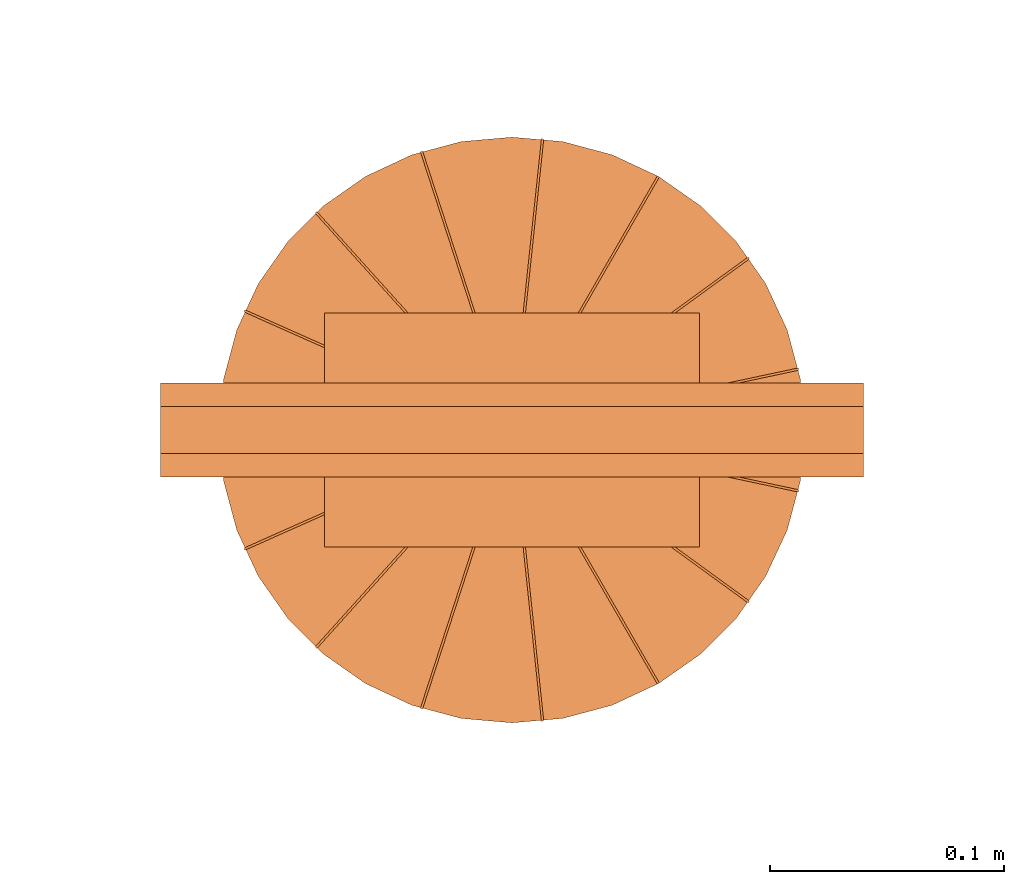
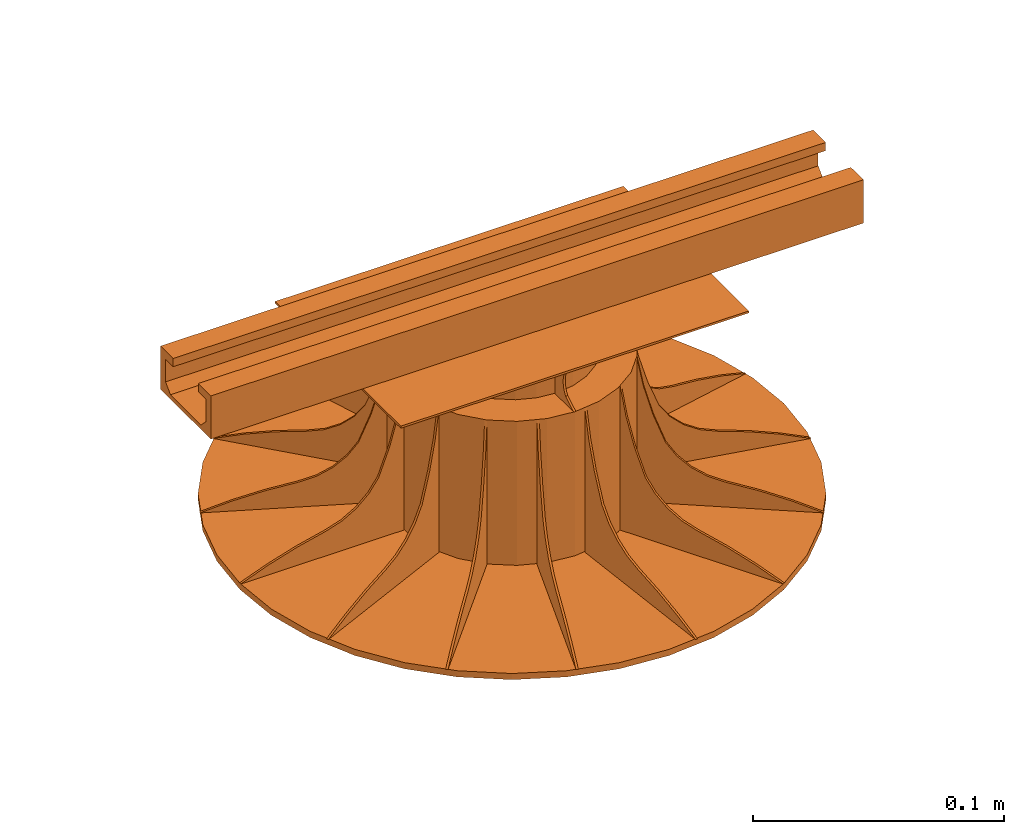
# One storey, part 72 of 197: 1 proxy.
"""IFC2X3 building model written with IfcOpenShell, lengths in metres."""

import ifcopenshell
import ifcopenshell.guid

model = None  # the IFC model being written
_history = None  # IfcOwnerHistory: only IFC2X3 demands one
_inside = {}  # id of a spatial element -> (the spatial element, [elements in it])
_under = {}  # id of a project, library or spatial element -> (it, [spatial elements below it])
_declared = {}  # id of a project -> (the project, [libraries it declares])
_typed = {}  # id of a type object -> (the type object, [elements of that type])
_made_of = {}  # id of a material, layer set ... -> (it, [elements and type objects made of it])


def new_model(schema):
    """Start an empty IFC model of exactly this schema.

    Asked for "IFC4X3", IfcOpenShell would pick the latest addendum, in which some entities
    have other attributes; the version numbers below select the first issue.
    IFC2X3 requires an IfcOwnerHistory on every rooted entity: one is made here for all.
    """
    global model, _history
    if schema == "IFC4X3":
        model = ifcopenshell.file(schema_version=(4, 3, 0, 0))
    else:
        model = ifcopenshell.file(schema=schema)
    _inside.clear()
    _under.clear()
    _declared.clear()
    _typed.clear()
    _made_of.clear()
    _history = None
    if model.schema == "IFC2X3":
        org = make("IfcOrganization", Name="unknown")
        user = make(
            "IfcPersonAndOrganization",
            ThePerson=make("IfcPerson", FamilyName="unknown"),
            TheOrganization=org,
        )
        app = make(
            "IfcApplication",
            ApplicationDeveloper=org,
            Version="unknown",
            ApplicationFullName="unknown",
            ApplicationIdentifier="unknown",
        )
        _history = make(
            "IfcOwnerHistory",
            OwningUser=user,
            OwningApplication=app,
            ChangeAction="ADDED",
            CreationDate=0,
        )
    return model


def make(cls, **values):
    """One entity of the class cls with the attributes given. An attribute that is None is left unset."""
    return model.create_entity(
        cls, **{name: value for name, value in values.items() if value is not None}
    )


def entity(cls, *values):
    """Any entity or typed value of the class cls, its attributes in the order of the schema. None: left unset."""
    e = model.create_entity(cls)
    for i, value in enumerate(values):
        if value is not None:
            e[i] = value
    return e


def rooted(cls, **values):
    """An entity with a GlobalId (a new one), such as an element, a storey or a relation."""
    return make(cls, GlobalId=ifcopenshell.guid.new(), OwnerHistory=_history, **values)


def si_unit(unit_type, name, prefix=None):
    """IfcSIUnit, for example si_unit("LENGTHUNIT", "METRE", prefix="MILLI")."""
    return make("IfcSIUnit", UnitType=unit_type, Prefix=prefix, Name=name)


def converted_unit(unit_type, name, factor, base, dimensions=None, offset=None):
    """IfcConversionBasedUnit, such as the inch: factor (a typed value) times the base unit."""
    return make(
        "IfcConversionBasedUnit"
        if offset is None
        else "IfcConversionBasedUnitWithOffset",
        ConversionOffset=offset,
        Dimensions=None
        if dimensions is None
        else entity("IfcDimensionalExponents", *dimensions),
        UnitType=unit_type,
        Name=name,
        ConversionFactor=make(
            "IfcMeasureWithUnit", ValueComponent=factor, UnitComponent=base
        ),
    )


def assignment(units):
    """IfcUnitAssignment: the units of a project."""
    return None if units is None else make("IfcUnitAssignment", Units=units)


def point(xyz):
    """IfcCartesianPoint."""
    return None if xyz is None else make("IfcCartesianPoint", Coordinates=xyz)


def direction(xyz):
    """IfcDirection."""
    return None if xyz is None else make("IfcDirection", DirectionRatios=xyz)


def frame(location, z_axis=None, x_axis=None):
    """IfcAxis2Placement3D, a coordinate frame: its origin and axes. An axis left out is left unset."""
    return make(
        "IfcAxis2Placement3D",
        Location=point(location),
        Axis=direction(z_axis),
        RefDirection=direction(x_axis),
    )


def frame_2d(location, x_axis=None):
    """IfcAxis2Placement2D, a coordinate frame in the plane: its origin and x axis."""
    return make(
        "IfcAxis2Placement2D", Location=point(location), RefDirection=direction(x_axis)
    )


def origin():
    """The frame at (0, 0, 0) with its axes left unset."""
    return frame((0.0, 0.0, 0.0))


def place(relative_to, where):
    """IfcLocalPlacement: puts the frame where relative to a parent placement (None: the world)."""
    return make(
        "IfcLocalPlacement", PlacementRelTo=relative_to, RelativePlacement=where
    )


def context(
    kind, dimensions, precision=None, world=None, true_north=None, identifier=None
):
    """IfcGeometricRepresentationContext, for example the 3D "Model" context."""
    return make(
        "IfcGeometricRepresentationContext",
        ContextIdentifier=identifier,
        ContextType=kind,
        CoordinateSpaceDimension=dimensions,
        Precision=precision,
        WorldCoordinateSystem=world,
        TrueNorth=true_north,
    )


def subcontext(parent, identifier, kind, view, scale=None):
    """IfcGeometricRepresentationSubContext, for example "Body" below "Model"."""
    return make(
        "IfcGeometricRepresentationSubContext",
        ContextIdentifier=identifier,
        ContextType=kind,
        ParentContext=parent,
        TargetScale=scale,
        TargetView=view,
    )


def project(units=None, contexts=None):
    """IfcProject with its units and contexts."""
    return rooted(
        "IfcProject",
        Name="project",
        RepresentationContexts=contexts,
        UnitsInContext=assignment(units),
    )


def spatial(cls, under=None, at=None, **own):
    """A site, building, storey or space (cls), placed at a placement, below another one or the project."""
    s = rooted(cls, ObjectPlacement=at, **own)
    if under is not None:
        _under.setdefault(under.id(), (under, []))[1].append(s)
    return s


def polyline(points):
    """IfcPolyline through the points."""
    return make("IfcPolyline", Points=[point(p) for p in points])


def circle_curve(where, radius):
    """IfcCircle in the frame where."""
    return make("IfcCircle", Position=where, Radius=radius)


def parameter(value):
    """IfcParameterValue: where a trimmed curve begins or ends, as a parameter of its basis curve."""
    return model.create_entity("IfcParameterValue", value)


def trimmed(basis, trim1, trim2, sense, master):
    """IfcTrimmedCurve: the piece of a basis curve between two trims."""
    return make(
        "IfcTrimmedCurve",
        BasisCurve=basis,
        Trim1=trim1,
        Trim2=trim2,
        SenseAgreement=sense,
        MasterRepresentation=master,
    )


def segment(curve, same_sense, transition):
    """IfcCompositeCurveSegment."""
    return make(
        "IfcCompositeCurveSegment",
        Transition=transition,
        SameSense=same_sense,
        ParentCurve=curve,
    )


def composite_curve(segments, self_intersect=None):
    """IfcCompositeCurve: segments joined end to end."""
    return make("IfcCompositeCurve", Segments=segments, SelfIntersect=self_intersect)


def profile(cls, at=None, kind="AREA", **sizes):
    """A parametric profile (cls). Its sizes go by their IFC names, for example OverallWidth=200.0."""
    return make(cls, ProfileType=kind, Position=at, **sizes)


def rectangle(**sizes):
    """IfcRectangleProfileDef."""
    return profile("IfcRectangleProfileDef", **sizes)


def circle(**sizes):
    """IfcCircleProfileDef."""
    return profile("IfcCircleProfileDef", **sizes)


def outline(outer, holes=None, kind="AREA"):
    """IfcArbitraryClosedProfileDef: a profile drawn as a closed curve; with holes, ...WithVoids."""
    if holes is None:
        return make("IfcArbitraryClosedProfileDef", ProfileType=kind, OuterCurve=outer)
    return make(
        "IfcArbitraryProfileDefWithVoids",
        ProfileType=kind,
        OuterCurve=outer,
        InnerCurves=holes,
    )


def extrude(swept, where, along, depth):
    """IfcExtrudedAreaSolid: the profile swept, set in the frame where, extruded along a direction by depth."""
    return make(
        "IfcExtrudedAreaSolid",
        SweptArea=swept,
        Position=where,
        ExtrudedDirection=direction(along),
        Depth=depth,
    )


def shape(context_of_items, identifier, shape_type, items):
    """IfcShapeRepresentation: the items that make up one representation, for example the "Body"."""
    return make(
        "IfcShapeRepresentation",
        ContextOfItems=context_of_items,
        RepresentationIdentifier=identifier,
        RepresentationType=shape_type,
        Items=items,
    )


def source(mapping_origin, context_of_items, identifier, shape_type, items):
    """IfcRepresentationMap: a shape defined once, which mapped items show again and again."""
    return make(
        "IfcRepresentationMap",
        MappingOrigin=mapping_origin,
        MappedRepresentation=shape(context_of_items, identifier, shape_type, items),
    )


def transform(
    local_origin,
    x_axis=None,
    y_axis=None,
    z_axis=None,
    scale=None,
    scale2=None,
    scale3=None,
    uniform=True,
):
    """IfcCartesianTransformationOperator3D, or its non-uniform kind. x_axis, y_axis, z_axis: its Axis1, 2, 3."""
    if uniform:
        return make(
            "IfcCartesianTransformationOperator3D",
            Axis1=direction(x_axis),
            Axis2=direction(y_axis),
            LocalOrigin=point(local_origin),
            Scale=scale,
            Axis3=direction(z_axis),
        )
    return make(
        "IfcCartesianTransformationOperator3DnonUniform",
        Axis1=direction(x_axis),
        Axis2=direction(y_axis),
        LocalOrigin=point(local_origin),
        Scale=scale,
        Axis3=direction(z_axis),
        Scale2=scale2,
        Scale3=scale3,
    )


def mapped(mapping_source, mapping_target):
    """IfcMappedItem: shows the shape of a source again, moved by a transform."""
    return make(
        "IfcMappedItem", MappingSource=mapping_source, MappingTarget=mapping_target
    )


def material(Name=None, Category=None):
    """IfcMaterial."""
    return make("IfcMaterial", Name=Name, Category=Category)


def made_of(thing, what):
    """Note that an element or type object is made of a material, layer set ...; save() writes the relation."""
    if what is not None:
        _made_of.setdefault(what.id(), (what, []))[1].append(thing)
    return thing


def type_object(cls, material=None, **own):
    """A type object (cls), such as IfcWallType, which elements share."""
    return made_of(rooted(cls, **own), material)


def type_shapes(of_type, sources):
    """Give a type object the sources (RepresentationMaps) that its elements show as mapped items."""
    of_type.RepresentationMaps = sources


def element(
    cls,
    number,
    at=None,
    inside=None,
    cuts=None,
    type_object=None,
    material=None,
    context=None,
    identifier="Body",
    shape_type=None,
    held_by="IfcProductDefinitionShape",
    body=None,
    shapes=None,
    **own,
):
    """One element of the class cls, such as IfcWall. Its Tag is "e" and its number.

    at: its placement. inside: the storey or other place that contains it. cuts: it is an
    opening in that element (IfcRelVoidsElement). A single representation is given by context,
    identifier, shape_type and body (its items); several are given by shapes. held_by: the class
    of the entity that holds the representations. save() writes the other relations.
    """
    e = rooted(cls, Tag="e%d" % number, ObjectPlacement=at, **own)
    if body is not None:
        shapes = [shape(context, identifier, shape_type, body)]
    if shapes is not None:
        e.Representation = make(held_by, Representations=shapes)
    if inside is not None:
        _inside.setdefault(inside.id(), (inside, []))[1].append(e)
    if cuts is not None:
        rooted(
            "IfcRelVoidsElement", RelatingBuildingElement=cuts, RelatedOpeningElement=e
        )
    if type_object is not None:
        _typed.setdefault(type_object.id(), (type_object, []))[1].append(e)
    return made_of(e, material)


def aggregate(whole, parts):
    """IfcRelAggregates: a whole, such as a stair, and the parts it consists of."""
    return rooted("IfcRelAggregates", RelatingObject=whole, RelatedObjects=parts)


def save(model, path):
    """Write the relations noted so far, then the file.

    IfcRelAggregates (storeys below a building ...), IfcRelContainedInSpatialStructure (elements
    in a storey), IfcRelDefinesByType, IfcRelAssociatesMaterial and IfcRelDeclares: one each for
    every whole, place, type object, material and project.
    """
    for whole, parts in _under.values():
        aggregate(whole, parts)
    for where, things in _inside.values():
        rooted(
            "IfcRelContainedInSpatialStructure",
            RelatedElements=things,
            RelatingStructure=where,
        )
    for kind, things in _typed.values():
        rooted("IfcRelDefinesByType", RelatedObjects=things, RelatingType=kind)
    for what, things in _made_of.values():
        rooted("IfcRelAssociatesMaterial", RelatedObjects=things, RelatingMaterial=what)
    for by, libraries in _declared.values():
        rooted("IfcRelDeclares", RelatingContext=by, RelatedDefinitions=libraries)
    model.write(path)


model = new_model("IFC2X3")

# Units and contexts
model_context = context("Model", 3, precision=1e-05, world=origin(), true_north=direction((6.123031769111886e-17, 1.0)))
body_context = subcontext(model_context, "Body", "Model", "MODEL_VIEW")
ifc_project = project(units=[si_unit("LENGTHUNIT", "METRE"), converted_unit("PLANEANGLEUNIT", "DEGREE", entity("IfcPlaneAngleMeasure", 0.017453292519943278), si_unit("PLANEANGLEUNIT", "RADIAN"), dimensions=[0, 0, 0, 0, 0, 0, 0]), si_unit("AREAUNIT", "SQUARE_METRE")], contexts=[model_context])

# Site, building, storey
site_placement = place(None, origin())
site = spatial("IfcSite", under=ifc_project, at=site_placement, Name="Default", CompositionType="ELEMENT")
building_placement = place(site_placement, origin())
building = spatial("IfcBuilding", under=site, at=building_placement, CompositionType="ELEMENT")
storey_placement = place(building_placement, origin())
storey = spatial("IfcBuildingStorey", under=building, at=storey_placement, Name="Niveau 0", CompositionType="ELEMENT", Elevation=0.0)

# Proxy
ifc_material = material(Name="<Unnamed>")
building_element_proxy_type = type_object("IfcBuildingElementProxyType", Name="Plot pour CDC:Plot pour CDC", PredefinedType="NOTDEFINED", material=ifc_material)
shared_shape = source(origin(), body_context, "Body", "SweptSolid", [
    extrude(outline(polyline([(-0.019811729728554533, -0.011355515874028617), (0.020188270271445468, -0.011355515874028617), (0.020188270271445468, 0.00964448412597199), (0.010188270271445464, 0.009644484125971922), (0.010188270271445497, 0.0056444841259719), (0.016188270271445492, 0.005644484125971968), (0.016188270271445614, -0.005355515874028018), (0.01229918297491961, -0.009244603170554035), (-0.0026357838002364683, -0.009244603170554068), (-0.011922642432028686, -0.009244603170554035), (-0.01581172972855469, -0.005355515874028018), (-0.015811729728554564, 0.005644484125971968), (-0.00981172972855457, 0.0056444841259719), (-0.009811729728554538, 0.009644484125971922), (-0.019811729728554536, 0.00964448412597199), (-0.019811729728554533, -0.011355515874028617)])), frame((-0.15000000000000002, -0.00018827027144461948, 0.10535551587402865), z_axis=(1.0, 0.0, 0.0), x_axis=(0.0, 1.0, 0.0)), (0.0, 0.0, 1.0), 0.3),
    extrude(outline(composite_curve([segment(polyline([(-0.007700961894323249, -0.011249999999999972), (0.0072990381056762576, -0.011249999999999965)]), True, "CONTINUOUS"), segment(trimmed(circle_curve(frame_2d((0.009202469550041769, -0.0010661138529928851), x_axis=(-1.0, 0.0)), 0.010360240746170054), [parameter(324.1603634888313)], [parameter(79.41321510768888)], True, "PARAMETER"), False, "CONTINUOUS"), segment(polyline([(0.0008038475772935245, 0.004999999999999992), (0.007299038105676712, 0.008749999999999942)]), True, "CONTINUOUS"), segment(polyline([(0.007299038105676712, 0.008749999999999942), (-0.007700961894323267, 0.008749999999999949)]), True, "CONTINUOUS"), segment(polyline([(-0.007700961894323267, 0.008749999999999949), (-0.007700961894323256, -0.011249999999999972)]), True, "CONTINUOUS")], self_intersect=False)), frame((-0.000500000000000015, -0.04270096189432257, 0.08174999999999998), z_axis=(1.0, 0.0, 0.0), x_axis=(0.0, -1.0, 0.0)), (0.0, 0.0, 1.0), 0.001),
    extrude(outline(composite_curve([segment(polyline([(-0.009651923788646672, -0.011249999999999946), (0.015102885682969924, -0.011249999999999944)]), True, "CONTINUOUS"), segment(trimmed(circle_curve(frame_2d((0.01510288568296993, 0.005000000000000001), x_axis=(-1.0, 0.0)), 0.016249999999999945), [parameter(3.053332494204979e-13)], [parameter(90.00000000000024)], True, "PARAMETER"), False, "CONTINUOUS"), segment(polyline([(-0.0011471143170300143, 0.004999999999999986), (0.005348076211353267, 0.008749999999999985)]), True, "CONTINUOUS"), segment(polyline([(0.005348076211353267, 0.008749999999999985), (-0.009651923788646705, 0.008749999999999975)]), True, "CONTINUOUS"), segment(polyline([(-0.009651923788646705, 0.008749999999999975), (-0.009651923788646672, -0.011249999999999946)]), True, "CONTINUOUS")], self_intersect=False)), frame((0.04465192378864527, -0.0005000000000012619, 0.08175000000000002), z_axis=(0.0, 1.0, 0.0), x_axis=(1.0, 0.0, 0.0)), (0.0, 0.0, 1.0), 0.001),
    extrude(outline(composite_curve([segment(polyline([(-0.011249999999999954, -0.007700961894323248), (0.008749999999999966, -0.0077009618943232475)]), True, "CONTINUOUS"), segment(polyline([(0.008749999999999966, -0.0077009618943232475), (0.00874999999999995, 0.007299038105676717)]), True, "CONTINUOUS"), segment(polyline([(0.00874999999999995, 0.007299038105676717), (0.005000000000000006, 0.0008038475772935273)]), True, "CONTINUOUS"), segment(trimmed(circle_curve(frame_2d((-0.0010661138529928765, 0.009202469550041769), x_axis=(0.0, -1.0)), 0.010360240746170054), [parameter(280.58678489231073)], [parameter(35.839636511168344)], True, "PARAMETER"), False, "CONTINUOUS"), segment(polyline([(-0.011249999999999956, 0.0072990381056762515), (-0.011249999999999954, -0.007700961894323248)]), True, "CONTINUOUS")], self_intersect=False)), frame((-0.0005000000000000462, 0.042700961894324, 0.08174999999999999), z_axis=(1.0, 0.0, 0.0), x_axis=(0.0, 0.0, -1.0)), (0.0, 0.0, 1.0), 0.001),
    extrude(outline(composite_curve([segment(polyline([(-0.011249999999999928, -0.00965192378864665), (0.008749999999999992, -0.00965192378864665)]), True, "CONTINUOUS"), segment(polyline([(0.008749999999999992, -0.00965192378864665), (0.008749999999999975, 0.00534807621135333)]), True, "CONTINUOUS"), segment(polyline([(0.008749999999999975, 0.00534807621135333), (0.004999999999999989, -0.001147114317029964)]), True, "CONTINUOUS"), segment(trimmed(circle_curve(frame_2d((0.004999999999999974, 0.01510288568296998), x_axis=(0.0, -1.0)), 0.016249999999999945), [parameter(269.9999999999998)], [parameter(359.9999999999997)], True, "PARAMETER"), False, "CONTINUOUS"), segment(polyline([(-0.01124999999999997, 0.015102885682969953), (-0.011249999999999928, -0.00965192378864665)]), True, "CONTINUOUS")], self_intersect=False)), frame((-0.044651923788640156, -0.0004999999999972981, 0.08175000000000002), z_axis=(0.0, 1.0, 0.0), x_axis=(0.0, 0.0, -1.0)), (0.0, 0.0, 1.0), 0.001),
    extrude(outline(composite_curve([segment(polyline([(-0.009651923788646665, -0.011249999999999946), (0.01510288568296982, -0.011249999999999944)]), True, "CONTINUOUS"), segment(trimmed(circle_curve(frame_2d((0.015102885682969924, 0.005000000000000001), x_axis=(-1.0, 0.0)), 0.016249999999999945), [parameter(359.99999999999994)], [parameter(89.99999999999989)], True, "PARAMETER"), False, "CONTINUOUS"), segment(polyline([(-0.0011471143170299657, 0.005), (0.005348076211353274, 0.008749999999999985)]), True, "CONTINUOUS"), segment(polyline([(0.005348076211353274, 0.008749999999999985), (-0.009651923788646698, 0.008749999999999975)]), True, "CONTINUOUS"), segment(polyline([(-0.009651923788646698, 0.008749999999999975), (-0.009651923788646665, -0.011249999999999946)]), True, "CONTINUOUS")], self_intersect=False)), frame((0.04465192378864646, -0.0004999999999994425, 0.08175000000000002), z_axis=(0.0, 1.0, 0.0), x_axis=(1.0, 0.0, 0.0)), (0.0, 0.0, 1.0), 0.001),
    extrude(outline(composite_curve([segment(polyline([(-0.011249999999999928, -0.009651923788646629), (0.008749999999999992, -0.009651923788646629)]), True, "CONTINUOUS"), segment(polyline([(0.008749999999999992, -0.009651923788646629), (0.008749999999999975, 0.005348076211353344)]), True, "CONTINUOUS"), segment(polyline([(0.008749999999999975, 0.005348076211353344), (0.005000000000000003, -0.0011471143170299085)]), True, "CONTINUOUS"), segment(trimmed(circle_curve(frame_2d((0.004999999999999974, 0.015102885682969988), x_axis=(0.0, -1.0)), 0.016249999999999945), [parameter(270.0000000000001)], [parameter(5.088887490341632e-14)], True, "PARAMETER"), False, "CONTINUOUS"), segment(polyline([(-0.01124999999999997, 0.015102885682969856), (-0.011249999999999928, -0.009651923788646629)]), True, "CONTINUOUS")], self_intersect=False)), frame((-0.044651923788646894, -0.0004999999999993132, 0.08175000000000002), z_axis=(0.0, 1.0, 0.0), x_axis=(0.0, 0.0, -1.0)), (0.0, 0.0, 1.0), 0.001),
    extrude(outline(composite_curve([segment(polyline([(-0.024462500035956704, 0.022321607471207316), (-0.024462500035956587, -0.047678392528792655)]), True, "CONTINUOUS"), segment(trimmed(circle_curve(frame_2d((0.1355297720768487, -0.07149420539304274), x_axis=(-1.0, 0.0)), 0.16175512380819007), [parameter(336.61763347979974)], [parameter(351.5333480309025)], True, "PARAMETER"), False, "CONTINUOUS"), segment(trimmed(circle_curve(frame_2d((0.01865562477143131, -0.02526938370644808), x_axis=(-1.0, 0.0)), 0.036349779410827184), [parameter(281.62813126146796)], [parameter(330.37186873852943)], True, "PARAMETER"), False, "CONTINUOUS"), segment(trimmed(circle_curve(frame_2d((-0.03280663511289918, 0.2248117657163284), x_axis=(-1.0, 0.0)), 0.218971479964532), [parameter(101.62813126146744)], [parameter(112.3718687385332)], True, "PARAMETER"), True, "CONTINUOUS"), segment(polyline([(0.05053749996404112, 0.022321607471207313), (-0.024462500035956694, 0.022321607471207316)]), True, "CONTINUOUS")], self_intersect=False)), frame((-0.05019671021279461, 0.05500185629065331, 0.0253216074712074), z_axis=(-0.7431448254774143, -0.6691306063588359, 0.0), x_axis=(-0.6691306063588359, 0.7431448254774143, 0.0)), (0.0, 0.0, -1.0), 0.0010000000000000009),
    extrude(outline(composite_curve([segment(polyline([(-0.02446250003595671, 0.022321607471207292), (-0.024462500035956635, -0.04767839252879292)]), True, "CONTINUOUS"), segment(trimmed(circle_curve(frame_2d((0.13552977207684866, -0.07149420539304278), x_axis=(-1.0, 0.0)), 0.16175512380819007), [parameter(336.61763347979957)], [parameter(351.5333480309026)], True, "PARAMETER"), False, "CONTINUOUS"), segment(trimmed(circle_curve(frame_2d((0.018655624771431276, -0.025269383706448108), x_axis=(-1.0, 0.0)), 0.036349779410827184), [parameter(281.628131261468)], [parameter(330.3718687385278)], True, "PARAMETER"), False, "CONTINUOUS"), segment(trimmed(circle_curve(frame_2d((-0.03280663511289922, 0.22481176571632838), x_axis=(-1.0, 0.0)), 0.218971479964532), [parameter(101.62813126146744)], [parameter(112.3718687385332)], True, "PARAMETER"), True, "CONTINUOUS"), segment(polyline([(0.05053749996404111, 0.022321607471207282), (-0.02446250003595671, 0.022321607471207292)]), True, "CONTINUOUS")], self_intersect=False)), frame((-0.023485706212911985, 0.07066353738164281, 0.02532160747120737), z_axis=(-0.9510565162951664, -0.30901699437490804, 0.0), x_axis=(-0.30901699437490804, 0.9510565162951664, 0.0)), (0.0, 0.0, -1.0), 0.0010000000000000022),
    extrude(outline(composite_curve([segment(polyline([(-0.022321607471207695, -0.02446250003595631), (0.04767839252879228, -0.02446250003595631)]), True, "CONTINUOUS"), segment(trimmed(circle_curve(frame_2d((0.07149420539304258, 0.13552977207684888), x_axis=(0.0, -1.0)), 0.16175512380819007), [parameter(336.6176334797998)], [parameter(351.5333480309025)], True, "PARAMETER"), False, "CONTINUOUS"), segment(trimmed(circle_curve(frame_2d((0.025269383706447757, 0.01865562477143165), x_axis=(0.0, -1.0)), 0.036349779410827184), [parameter(281.628131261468)], [parameter(330.37186873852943)], True, "PARAMETER"), False, "CONTINUOUS"), segment(trimmed(circle_curve(frame_2d((-0.2248117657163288, -0.032806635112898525), x_axis=(0.0, -1.0)), 0.218971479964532), [parameter(101.62813126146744)], [parameter(112.3718687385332)], True, "PARAMETER"), True, "CONTINUOUS"), segment(polyline([(-0.022321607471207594, 0.050537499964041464), (-0.022321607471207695, -0.02446250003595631)]), True, "CONTINUOUS")], self_intersect=False)), frame((0.008280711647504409, 0.07400232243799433, 0.025321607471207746), z_axis=(-0.994521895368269, 0.10452846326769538, 0.0), x_axis=(0.0, 0.0, 1.0)), (0.0, 0.0, 1.0), 0.001000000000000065),
    extrude(outline(composite_curve([segment(polyline([(-0.022321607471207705, -0.02446250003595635), (0.047678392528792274, -0.02446250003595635)]), True, "CONTINUOUS"), segment(trimmed(circle_curve(frame_2d((0.07149420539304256, 0.1355297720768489), x_axis=(0.0, -1.0)), 0.16175512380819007), [parameter(336.6176334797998)], [parameter(351.5333480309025)], True, "PARAMETER"), False, "CONTINUOUS"), segment(trimmed(circle_curve(frame_2d((0.025269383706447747, 0.018655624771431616), x_axis=(0.0, -1.0)), 0.036349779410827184), [parameter(281.62813126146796)], [parameter(330.3718687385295)], True, "PARAMETER"), False, "CONTINUOUS"), segment(trimmed(circle_curve(frame_2d((-0.22481176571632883, -0.032806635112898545), x_axis=(0.0, -1.0)), 0.218971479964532), [parameter(101.62813126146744)], [parameter(112.3718687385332)], True, "PARAMETER"), True, "CONTINUOUS"), segment(polyline([(-0.022321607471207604, 0.05053749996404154), (-0.022321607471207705, -0.02446250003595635)]), True, "CONTINUOUS")], self_intersect=False)), frame((0.03766426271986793, 0.0642364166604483, 0.025321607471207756), z_axis=(-0.8660254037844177, 0.5000000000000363, 0.0), x_axis=(0.0, 0.0, 1.0)), (0.0, 0.0, 1.0), 0.0010000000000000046),
    extrude(outline(composite_curve([segment(polyline([(-0.024462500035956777, 0.022321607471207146), (-0.024462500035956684, -0.04767839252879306)]), True, "CONTINUOUS"), segment(trimmed(circle_curve(frame_2d((0.1355297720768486, -0.07149420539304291), x_axis=(-1.0, 0.0)), 0.16175512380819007), [parameter(336.61763347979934)], [parameter(351.5333480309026)], True, "PARAMETER"), False, "CONTINUOUS"), segment(trimmed(circle_curve(frame_2d((0.0186556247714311, -0.025269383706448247), x_axis=(-1.0, 0.0)), 0.036349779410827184), [parameter(281.62813126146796)], [parameter(330.37186873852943)], True, "PARAMETER"), False, "CONTINUOUS"), segment(trimmed(circle_curve(frame_2d((-0.03280663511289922, 0.22481176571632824), x_axis=(-1.0, 0.0)), 0.218971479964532), [parameter(101.62813126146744)], [parameter(112.3718687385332)], True, "PARAMETER"), True, "CONTINUOUS"), segment(polyline([(0.05053749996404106, 0.022321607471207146), (-0.024462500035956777, 0.022321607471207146)]), True, "CONTINUOUS")], self_intersect=False)), frame((0.059947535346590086, 0.04417246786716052, 0.02532160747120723), z_axis=(-0.5877852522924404, 0.8090169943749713, 0.0), x_axis=(0.8090169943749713, 0.5877852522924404, 0.0)), (0.0, 0.0, -1.0), 0.0009999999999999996),
    extrude(outline(composite_curve([segment(polyline([(-0.022321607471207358, -0.0244625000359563), (0.04767839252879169, -0.0244625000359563)]), True, "CONTINUOUS"), segment(trimmed(circle_curve(frame_2d((0.07149420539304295, 0.1355297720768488), x_axis=(0.0, -1.0)), 0.16175512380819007), [parameter(336.6176334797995)], [parameter(351.5333480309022)], True, "PARAMETER"), False, "CONTINUOUS"), segment(trimmed(circle_curve(frame_2d((0.0252693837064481, 0.018655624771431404), x_axis=(0.0, -1.0)), 0.036349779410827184), [parameter(281.62813126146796)], [parameter(330.3718687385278)], True, "PARAMETER"), False, "CONTINUOUS"), segment(trimmed(circle_curve(frame_2d((-0.22481176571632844, -0.03280663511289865), x_axis=(0.0, -1.0)), 0.218971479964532), [parameter(101.62813126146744)], [parameter(112.3718687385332)], True, "PARAMETER"), True, "CONTINUOUS"), segment(polyline([(-0.02232160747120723, 0.05053749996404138), (-0.022321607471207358, -0.0244625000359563)]), True, "CONTINUOUS")], self_intersect=False)), frame((0.07293927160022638, 0.014992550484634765, 0.0253216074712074), z_axis=(-0.20791169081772, 0.978147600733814, 0.0), x_axis=(0.0, 0.0, 1.0)), (0.0, 0.0, 1.0), 0.0010000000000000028),
    extrude(outline(composite_curve([segment(polyline([(-0.022321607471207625, -0.024462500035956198), (0.0476783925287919, -0.024462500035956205)]), True, "CONTINUOUS"), segment(trimmed(circle_curve(frame_2d((0.07149420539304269, 0.1355297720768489), x_axis=(0.0, -1.0)), 0.16175512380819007), [parameter(336.6176334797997)], [parameter(351.53334803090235)], True, "PARAMETER"), False, "CONTINUOUS"), segment(trimmed(circle_curve(frame_2d((0.025269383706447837, 0.018655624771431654), x_axis=(0.0, -1.0)), 0.036349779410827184), [parameter(281.628131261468)], [parameter(330.3718687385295)], True, "PARAMETER"), False, "CONTINUOUS"), segment(trimmed(circle_curve(frame_2d((-0.22481176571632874, -0.032806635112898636), x_axis=(0.0, -1.0)), 0.218971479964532), [parameter(101.62813126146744)], [parameter(112.3718687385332)], True, "PARAMETER"), True, "CONTINUOUS"), segment(polyline([(-0.022321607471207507, 0.050537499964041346), (-0.022321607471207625, -0.024462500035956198)]), True, "CONTINUOUS")], self_intersect=False)), frame((0.072731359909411, -0.015970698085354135, 0.02532160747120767), z_axis=(0.20791169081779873, 0.9781476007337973, 0.0), x_axis=(0.0, 0.0, 1.0)), (0.0, 0.0, 1.0), 0.0009999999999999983),
    extrude(outline(composite_curve([segment(polyline([(-0.022321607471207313, -0.024462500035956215), (0.04767839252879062, -0.024462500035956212)]), True, "CONTINUOUS"), segment(trimmed(circle_curve(frame_2d((0.071494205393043, 0.13552977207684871), x_axis=(0.0, -1.0)), 0.16175512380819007), [parameter(336.6176334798)], [parameter(351.5333480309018)], True, "PARAMETER"), False, "CONTINUOUS"), segment(trimmed(circle_curve(frame_2d((0.02526938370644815, 0.01865562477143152), x_axis=(0.0, -1.0)), 0.036349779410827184), [parameter(281.628131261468)], [parameter(330.3718687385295)], True, "PARAMETER"), False, "CONTINUOUS"), segment(trimmed(circle_curve(frame_2d((-0.2248117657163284, -0.032806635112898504), x_axis=(0.0, -1.0)), 0.218971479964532), [parameter(101.62813126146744)], [parameter(112.3718687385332)], True, "PARAMETER"), True, "CONTINUOUS"), segment(polyline([(-0.02232160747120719, 0.050537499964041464), (-0.022321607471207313, -0.024462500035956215)]), True, "CONTINUOUS")], self_intersect=False)), frame((0.059947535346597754, -0.04417246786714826, 0.025321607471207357), z_axis=(0.5877852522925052, 0.8090169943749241, 0.0), x_axis=(0.0, 0.0, 1.0)), (0.0, 0.0, 1.0), 0.0009999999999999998),
    extrude(outline(composite_curve([segment(polyline([(-0.022321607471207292, -0.024462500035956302), (0.04767839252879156, -0.0244625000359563)]), True, "CONTINUOUS"), segment(trimmed(circle_curve(frame_2d((0.07149420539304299, 0.13552977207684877), x_axis=(0.0, -1.0)), 0.16175512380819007), [parameter(336.61763347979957)], [parameter(351.53334803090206)], True, "PARAMETER"), False, "CONTINUOUS"), segment(trimmed(circle_curve(frame_2d((0.025269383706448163, 0.018655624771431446), x_axis=(0.0, -1.0)), 0.036349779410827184), [parameter(281.62813126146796)], [parameter(330.3718687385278)], True, "PARAMETER"), False, "CONTINUOUS"), segment(trimmed(circle_curve(frame_2d((-0.2248117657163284, -0.03280663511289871), x_axis=(0.0, -1.0)), 0.218971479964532), [parameter(101.62813126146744)], [parameter(112.3718687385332)], True, "PARAMETER"), True, "CONTINUOUS"), segment(polyline([(-0.02232160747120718, 0.05053749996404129), (-0.022321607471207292, -0.02446250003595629)]), True, "CONTINUOUS")], self_intersect=False)), frame((0.036798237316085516, -0.0647364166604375, 0.02532160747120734), z_axis=(0.866025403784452, 0.49999999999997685, 0.0), x_axis=(0.0, 0.0, 1.0)), (0.0, 0.0, 1.0), 0.001000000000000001),
    extrude(outline(composite_curve([segment(polyline([(-0.022321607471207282, -0.024462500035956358), (0.04767839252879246, -0.024462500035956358)]), True, "CONTINUOUS"), segment(trimmed(circle_curve(frame_2d((0.07149420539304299, 0.13552977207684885), x_axis=(0.0, -1.0)), 0.16175512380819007), [parameter(336.6176334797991)], [parameter(351.53334803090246)], True, "PARAMETER"), False, "CONTINUOUS"), segment(trimmed(circle_curve(frame_2d((0.02526938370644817, 0.01865562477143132), x_axis=(0.0, -1.0)), 0.036349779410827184), [parameter(281.628131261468)], [parameter(330.3718687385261)], True, "PARAMETER"), False, "CONTINUOUS"), segment(trimmed(circle_curve(frame_2d((-0.22481176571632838, -0.03280663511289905), x_axis=(0.0, -1.0)), 0.218971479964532), [parameter(101.62813126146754)], [parameter(112.3718687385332)], True, "PARAMETER"), True, "CONTINUOUS"), segment(polyline([(-0.02232160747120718, 0.050537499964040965), (-0.022321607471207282, -0.024462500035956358)]), True, "CONTINUOUS")], self_intersect=False)), frame((0.007286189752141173, -0.07410685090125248, 0.025321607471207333), z_axis=(0.9945218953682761, 0.10452846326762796, 0.0), x_axis=(0.0, 0.0, 1.0)), (0.0, 0.0, 1.0), 0.000999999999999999),
    extrude(outline(composite_curve([segment(polyline([(-0.02232160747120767, -0.02446250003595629), (0.04767839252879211, -0.024462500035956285)]), True, "CONTINUOUS"), segment(trimmed(circle_curve(frame_2d((0.07149420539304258, 0.13552977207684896), x_axis=(0.0, -1.0)), 0.16175512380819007), [parameter(336.61763347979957)], [parameter(351.53334803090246)], True, "PARAMETER"), False, "CONTINUOUS"), segment(trimmed(circle_curve(frame_2d((0.02526938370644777, 0.018655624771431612), x_axis=(0.0, -1.0)), 0.036349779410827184), [parameter(281.628131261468)], [parameter(330.3718687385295)], True, "PARAMETER"), False, "CONTINUOUS"), segment(trimmed(circle_curve(frame_2d((-0.22481176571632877, -0.032806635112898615), x_axis=(0.0, -1.0)), 0.218971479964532), [parameter(101.62813126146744)], [parameter(112.3718687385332)], True, "PARAMETER"), True, "CONTINUOUS"), segment(polyline([(-0.022321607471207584, 0.0505374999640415), (-0.02232160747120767, -0.02446250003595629)]), True, "CONTINUOUS")], self_intersect=False)), frame((-0.02348570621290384, -0.07066353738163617, 0.025321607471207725), z_axis=(0.9510565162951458, -0.30901699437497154, 0.0), x_axis=(0.0, 0.0, 1.0)), (0.0, 0.0, 1.0), 0.0009999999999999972),
    extrude(outline(composite_curve([segment(polyline([(-0.022321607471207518, -0.024462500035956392), (0.04767839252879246, -0.02446250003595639)]), True, "CONTINUOUS"), segment(trimmed(circle_curve(frame_2d((0.07149420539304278, 0.13552977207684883), x_axis=(0.0, -1.0)), 0.16175512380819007), [parameter(336.61763347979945)], [parameter(351.5333480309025)], True, "PARAMETER"), False, "CONTINUOUS"), segment(trimmed(circle_curve(frame_2d((0.025269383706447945, 0.01865562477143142), x_axis=(0.0, -1.0)), 0.036349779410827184), [parameter(281.628131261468)], [parameter(330.3718687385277)], True, "PARAMETER"), False, "CONTINUOUS"), segment(trimmed(circle_curve(frame_2d((-0.22481176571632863, -0.03280663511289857), x_axis=(0.0, -1.0)), 0.218971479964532), [parameter(101.62813126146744)], [parameter(112.3718687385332)], True, "PARAMETER"), True, "CONTINUOUS"), segment(polyline([(-0.022321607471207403, 0.050537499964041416), (-0.022321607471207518, -0.024462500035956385)]), True, "CONTINUOUS")], self_intersect=False)), frame((-0.05019671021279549, -0.055001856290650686, 0.025321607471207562), z_axis=(0.7431448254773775, -0.6691306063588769, 0.0), x_axis=(0.0, 0.0, 1.0)), (0.0, 0.0, 1.0), 0.001000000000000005),
    extrude(outline(composite_curve([segment(polyline([(-0.0244625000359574, 0.022321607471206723), (-0.024462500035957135, -0.04767839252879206)]), True, "CONTINUOUS"), segment(trimmed(circle_curve(frame_2d((0.1355297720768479, -0.07149420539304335), x_axis=(-1.0, 0.0)), 0.16175512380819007), [parameter(336.6176334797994)], [parameter(351.53334803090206)], True, "PARAMETER"), False, "CONTINUOUS"), segment(trimmed(circle_curve(frame_2d((0.018655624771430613, -0.025269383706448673), x_axis=(-1.0, 0.0)), 0.036349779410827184), [parameter(281.6281312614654)], [parameter(330.3718687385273)], True, "PARAMETER"), False, "CONTINUOUS"), segment(trimmed(circle_curve(frame_2d((-0.03280663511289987, 0.22481176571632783), x_axis=(-1.0, 0.0)), 0.218971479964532), [parameter(101.62813126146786)], [parameter(112.37186873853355)], True, "PARAMETER"), True, "CONTINUOUS"), segment(polyline([(0.05053749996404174, 0.02232160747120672), (-0.0244625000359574, 0.022321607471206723)]), True, "CONTINUOUS")], self_intersect=False)), frame((-0.06782151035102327, -0.030743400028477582, 0.025321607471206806), z_axis=(0.40673664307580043, -0.9135454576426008, 0.0), x_axis=(-0.9135454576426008, -0.40673664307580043, 0.0)), (0.0, 0.0, -1.0), 0.001),
    extrude(outline(composite_curve([segment(polyline([(-0.0244625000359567, 0.022321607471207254), (-0.024462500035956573, -0.04767839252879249)]), True, "CONTINUOUS"), segment(trimmed(circle_curve(frame_2d((0.13552977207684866, -0.07149420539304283), x_axis=(-1.0, 0.0)), 0.16175512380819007), [parameter(336.6176334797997)], [parameter(351.53334803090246)], True, "PARAMETER"), False, "CONTINUOUS"), segment(trimmed(circle_curve(frame_2d((0.018655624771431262, -0.025269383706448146), x_axis=(-1.0, 0.0)), 0.036349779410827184), [parameter(281.628131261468)], [parameter(330.3718687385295)], True, "PARAMETER"), False, "CONTINUOUS"), segment(trimmed(circle_curve(frame_2d((-0.03280663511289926, 0.22481176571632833), x_axis=(-1.0, 0.0)), 0.218971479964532), [parameter(101.62813126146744)], [parameter(112.3718687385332)], True, "PARAMETER"), True, "CONTINUOUS"), segment(polyline([(0.05053749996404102, 0.022321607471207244), (-0.0244625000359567, 0.022321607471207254)]), True, "CONTINUOUS")], self_intersect=False)), frame((-0.06822824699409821, 0.029829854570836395, 0.025321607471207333), z_axis=(-0.4067366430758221, -0.9135454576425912, 0.0), x_axis=(-0.9135454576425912, 0.4067366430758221, 0.0)), (0.0, 0.0, -1.0), 0.0010000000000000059),
    extrude(outline(composite_curve([segment(polyline([(-0.02446250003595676, 0.022321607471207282), (-0.024462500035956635, -0.04767839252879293)]), True, "CONTINUOUS"), segment(trimmed(circle_curve(frame_2d((0.13552977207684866, -0.07149420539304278), x_axis=(-1.0, 0.0)), 0.16175512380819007), [parameter(336.61763347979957)], [parameter(351.5333480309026)], True, "PARAMETER"), False, "CONTINUOUS"), segment(trimmed(circle_curve(frame_2d((0.018655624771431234, -0.02526938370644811), x_axis=(-1.0, 0.0)), 0.036349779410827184), [parameter(281.62813126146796)], [parameter(330.3718687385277)], True, "PARAMETER"), False, "CONTINUOUS"), segment(trimmed(circle_curve(frame_2d((-0.0328066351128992, 0.22481176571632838), x_axis=(-1.0, 0.0)), 0.218971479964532), [parameter(101.62813126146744)], [parameter(112.3718687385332)], True, "PARAMETER"), True, "CONTINUOUS"), segment(polyline([(0.050537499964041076, 0.02232160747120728), (-0.02446250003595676, 0.022321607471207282)]), True, "CONTINUOUS")], self_intersect=False)), frame((-0.07446250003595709, -0.0004999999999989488, 0.025321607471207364), z_axis=(0.0, -1.0, 0.0), x_axis=(-1.0, 0.0, 0.0)), (0.0, 0.0, -1.0), 0.001),
    extrude(rectangle(XDim=0.10000000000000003, YDim=0.16, at=frame_2d((-3.469446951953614e-18, 0.0), x_axis=(1.0, 0.0))), frame((0.0, 0.0, 0.09300000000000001), z_axis=(0.0, 0.0, 1.0), x_axis=(0.0, 1.0, 0.0)), (0.0, 0.0, 1.0), 0.0009999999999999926),
    extrude(circle(Radius=0.035, at=frame_2d((-2.666946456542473e-23, -5.654406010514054e-17), x_axis=(1.0, 0.0))), frame((0.0, 0.0, 0.07300000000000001), z_axis=(0.0, 0.0, 1.0), x_axis=(0.0, -1.0, 0.0)), (0.0, 0.0, 1.0), 0.020000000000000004),
    extrude(circle(Radius=0.05, at=frame_2d((4.1088202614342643e-22, -8.077722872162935e-17), x_axis=(1.0, 0.0))), frame((0.0, 0.0, 0.003), z_axis=(0.0, 0.0, 1.0), x_axis=(0.0, -1.0, 0.0)), (0.0, 0.0, 1.0), 0.07),
    extrude(circle(Radius=0.12500000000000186, at=frame_2d((6.1897722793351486e-21, -2.0194307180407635e-16), x_axis=(1.0, 0.0))), origin(), (0.0, 0.0, 1.0), 0.003),
])
type_shapes(building_element_proxy_type, [shared_shape])
proxy_placement = place(storey_placement, frame((-371.8494485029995, 75.35054659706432, 0.0)))
element("IfcBuildingElementProxy", 1, at=proxy_placement, inside=storey, type_object=building_element_proxy_type, material=ifc_material, Name="Plot pour CDC:Plot pour CDC", ObjectType="Plot pour CDC:Plot pour CDC", context=body_context, shape_type="MappedRepresentation", body=[
    mapped(shared_shape, transform((0.0, 0.0, 0.0), scale=1.0)),
])

save(model, "model.ifc")
